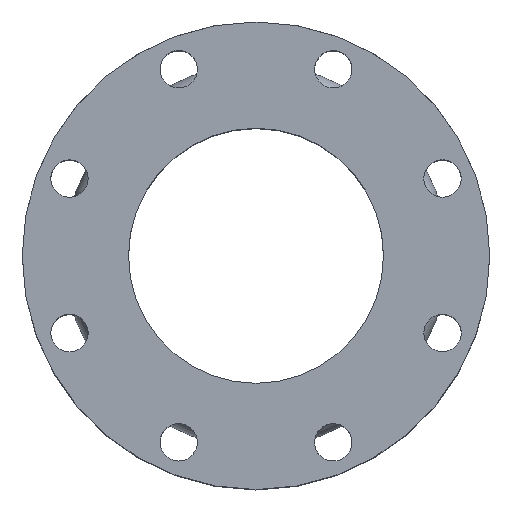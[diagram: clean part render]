
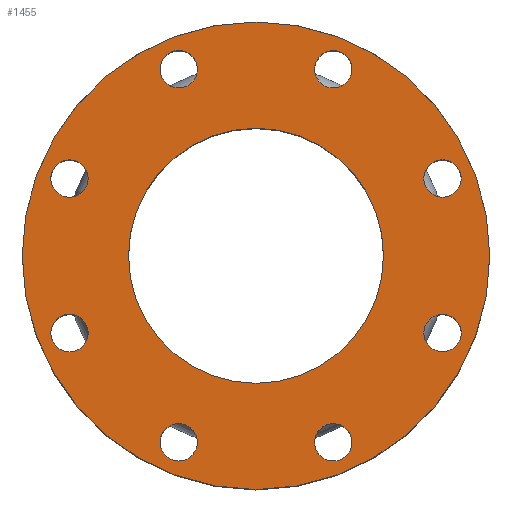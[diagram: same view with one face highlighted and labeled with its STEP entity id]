
A CAD part, top view. The second image highlights one B-rep face of the part: STEP entity #1455.
In plain terms, the highlighted planar face has unit normal (0, 0, 1).
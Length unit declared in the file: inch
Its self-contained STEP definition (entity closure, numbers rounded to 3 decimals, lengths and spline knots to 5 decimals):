
#40=FACE_BOUND('',#257,.T.);
#41=FACE_BOUND('',#258,.T.);
#42=FACE_BOUND('',#259,.T.);
#43=FACE_BOUND('',#260,.T.);
#44=FACE_BOUND('',#261,.T.);
#45=FACE_BOUND('',#262,.T.);
#46=FACE_BOUND('',#263,.T.);
#47=FACE_BOUND('',#264,.T.);
#48=FACE_BOUND('',#265,.T.);
#96=PLANE('',#1625);
#156=FACE_OUTER_BOUND('',#256,.T.);
#256=EDGE_LOOP('',(#1076));
#257=EDGE_LOOP('',(#1077));
#258=EDGE_LOOP('',(#1078));
#259=EDGE_LOOP('',(#1079));
#260=EDGE_LOOP('',(#1080));
#261=EDGE_LOOP('',(#1081));
#262=EDGE_LOOP('',(#1082));
#263=EDGE_LOOP('',(#1083));
#264=EDGE_LOOP('',(#1084));
#265=EDGE_LOOP('',(#1085));
#540=CIRCLE('',#1598,0.44);
#542=CIRCLE('',#1601,0.44);
#544=CIRCLE('',#1604,0.44);
#546=CIRCLE('',#1607,0.44);
#548=CIRCLE('',#1610,0.44);
#550=CIRCLE('',#1613,0.44);
#552=CIRCLE('',#1616,0.44);
#554=CIRCLE('',#1619,0.44);
#555=CIRCLE('',#1621,3.);
#557=CIRCLE('',#1624,5.5);
#648=VERTEX_POINT('',#2305);
#650=VERTEX_POINT('',#2311);
#652=VERTEX_POINT('',#2317);
#654=VERTEX_POINT('',#2323);
#656=VERTEX_POINT('',#2329);
#658=VERTEX_POINT('',#2335);
#660=VERTEX_POINT('',#2341);
#662=VERTEX_POINT('',#2347);
#663=VERTEX_POINT('',#2351);
#665=VERTEX_POINT('',#2357);
#793=EDGE_CURVE('',#648,#648,#540,.T.);
#796=EDGE_CURVE('',#650,#650,#542,.T.);
#799=EDGE_CURVE('',#652,#652,#544,.T.);
#802=EDGE_CURVE('',#654,#654,#546,.T.);
#805=EDGE_CURVE('',#656,#656,#548,.T.);
#808=EDGE_CURVE('',#658,#658,#550,.T.);
#811=EDGE_CURVE('',#660,#660,#552,.T.);
#814=EDGE_CURVE('',#662,#662,#554,.T.);
#815=EDGE_CURVE('',#663,#663,#555,.T.);
#819=EDGE_CURVE('',#665,#665,#557,.T.);
#1076=ORIENTED_EDGE('',*,*,#819,.F.);
#1077=ORIENTED_EDGE('',*,*,#793,.T.);
#1078=ORIENTED_EDGE('',*,*,#796,.T.);
#1079=ORIENTED_EDGE('',*,*,#799,.T.);
#1080=ORIENTED_EDGE('',*,*,#802,.T.);
#1081=ORIENTED_EDGE('',*,*,#805,.T.);
#1082=ORIENTED_EDGE('',*,*,#808,.T.);
#1083=ORIENTED_EDGE('',*,*,#811,.T.);
#1084=ORIENTED_EDGE('',*,*,#814,.T.);
#1085=ORIENTED_EDGE('',*,*,#815,.T.);
#1455=ADVANCED_FACE('',(#156,#40,#41,#42,#43,#44,#45,#46,#47,#48),#96,.F.);
#1598=AXIS2_PLACEMENT_3D('',#2307,#1882,#1883);
#1601=AXIS2_PLACEMENT_3D('',#2313,#1889,#1890);
#1604=AXIS2_PLACEMENT_3D('',#2319,#1896,#1897);
#1607=AXIS2_PLACEMENT_3D('',#2325,#1903,#1904);
#1610=AXIS2_PLACEMENT_3D('',#2331,#1910,#1911);
#1613=AXIS2_PLACEMENT_3D('',#2337,#1917,#1918);
#1616=AXIS2_PLACEMENT_3D('',#2343,#1924,#1925);
#1619=AXIS2_PLACEMENT_3D('',#2349,#1931,#1932);
#1621=AXIS2_PLACEMENT_3D('',#2352,#1935,#1936);
#1624=AXIS2_PLACEMENT_3D('',#2359,#1943,#1944);
#1625=AXIS2_PLACEMENT_3D('',#2360,#1945,#1946);
#1882=DIRECTION('center_axis',(0.,0.,
-1.));
#1883=DIRECTION('ref_axis',(0.,-1.,0.));
#1889=DIRECTION('center_axis',(0.,0.,
-1.));
#1890=DIRECTION('ref_axis',(-0.707,-0.707,0.));
#1896=DIRECTION('center_axis',(0.,0.,
-1.));
#1897=DIRECTION('ref_axis',(-1.,0.,0.));
#1903=DIRECTION('center_axis',(0.,0.,
-1.));
#1904=DIRECTION('ref_axis',(-0.707,0.707,0.));
#1910=DIRECTION('center_axis',(0.,0.,
-1.));
#1911=DIRECTION('ref_axis',(0.,1.,0.));
#1917=DIRECTION('center_axis',(0.,0.,
-1.));
#1918=DIRECTION('ref_axis',(0.707,0.707,0.));
#1924=DIRECTION('center_axis',(0.,0.,
-1.));
#1925=DIRECTION('ref_axis',(0.707,-0.707,0.));
#1931=DIRECTION('center_axis',(0.,0.,
-1.));
#1932=DIRECTION('ref_axis',(1.,0.,0.));
#1935=DIRECTION('center_axis',(0.,0.,
-1.));
#1936=DIRECTION('ref_axis',(-1.,0.,0.));
#1943=DIRECTION('center_axis',(0.,0.,
-1.));
#1944=DIRECTION('ref_axis',(1.,0.,0.));
#1945=DIRECTION('center_axis',(0.,0.,
-1.));
#1946=DIRECTION('ref_axis',(1.,0.,0.));
#2305=CARTESIAN_POINT('',(-4.38843,2.25775,3.));
#2307=CARTESIAN_POINT('Origin',(-4.38843,1.81775,3.));
#2311=CARTESIAN_POINT('',(-1.50662,4.69955,3.));
#2313=CARTESIAN_POINT('Origin',(-1.81775,4.38843,3.));
#2317=CARTESIAN_POINT('',(2.25775,4.38843,3.));
#2319=CARTESIAN_POINT('Origin',(1.81775,4.38843,3.));
#2323=CARTESIAN_POINT('',(4.69955,1.50662,3.));
#2325=CARTESIAN_POINT('Origin',(4.38843,1.81775,3.));
#2329=CARTESIAN_POINT('',(4.38843,-2.25775,3.));
#2331=CARTESIAN_POINT('Origin',(4.38843,-1.81775,3.));
#2335=CARTESIAN_POINT('',(1.50662,-4.69955,3.));
#2337=CARTESIAN_POINT('Origin',(1.81775,-4.38843,3.));
#2341=CARTESIAN_POINT('',(-4.69955,-1.50662,3.));
#2343=CARTESIAN_POINT('Origin',(-4.38843,-1.81775,3.));
#2347=CARTESIAN_POINT('',(-2.25775,-4.38843,3.));
#2349=CARTESIAN_POINT('Origin',(-1.81775,-4.38843,3.));
#2351=CARTESIAN_POINT('',(3.,0.,3.));
#2352=CARTESIAN_POINT('Origin',(0.,0.,
3.));
#2357=CARTESIAN_POINT('',(-5.5,0.,3.));
#2359=CARTESIAN_POINT('Origin',(0.,0.,
3.));
#2360=CARTESIAN_POINT('Origin',(0.,0.,
3.));
